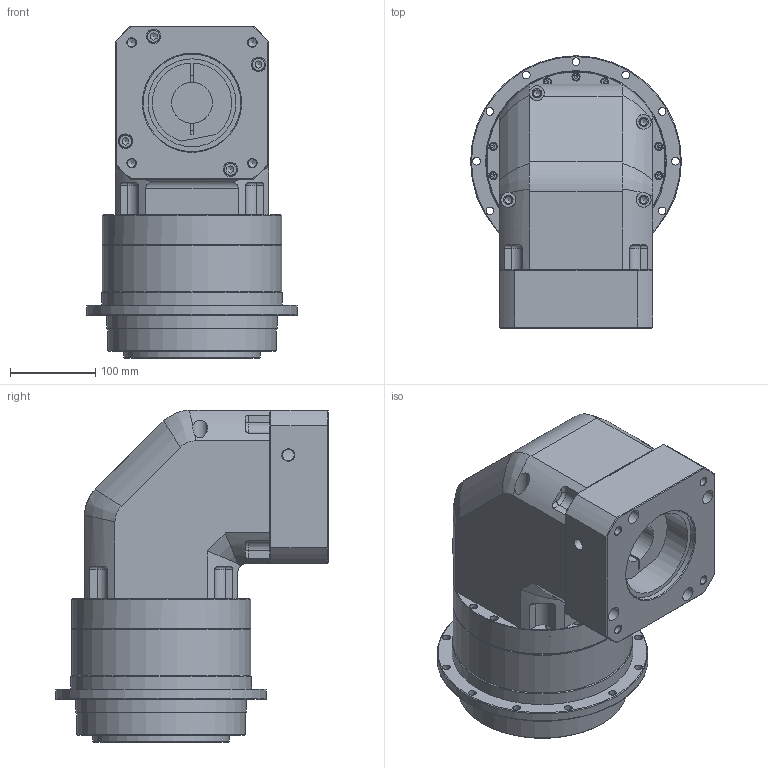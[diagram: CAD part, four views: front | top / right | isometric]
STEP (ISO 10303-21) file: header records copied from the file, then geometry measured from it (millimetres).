
FILE_DESCRIPTION((''),'2;1');
FILE_NAME('D:\유성\유성\도면\3D\2. 홈페이지용 3D 도면 (ipt)\외부도\SPLFH180\SPLFH180 SERIES (1 STAGE)_Shrinkwrap_1.stp','2014-05-07T15:03:24',('nagyu'),(''),'Autodesk Inventor 2013','Autodesk Inventor 2013','');
FILE_SCHEMA(('AUTOMOTIVE_DESIGN { 1 0 10303 214 1 1 1 1 }'));
Length unit declared in the file: millimetre
Products named in the file (1): SPLFH180 SERIES (1 STAGE)_Shrinkwrap_1
Bounding box: 247 x 319.5 x 389 mm (x, y, z)
Volume: 13821384.8 mm3; surface area: 624502.3 mm2
Topology: 1 solids, 27 shells, 609 faces, 1401 edges, 883 vertices
Faces by surface type: plane 275, cylinder 205, cone 93, torus 32, bspline 4
Full cylindrical faces by diameter (mm): 4.1 x2, 4.134 x18, 5 x7, 5.5 x15, 8.376 x18, 8.5 x7, 9 x12, 9.5 x15, 10 x5, 10.106 x4, 11 x8, 13.835 x1, 16 x14, 17 x4, 17.5 x4, 48 x1, 64.8 x1, 65 x1, 80 x1, 103 x1, 114.3 x1, 145 x2, 155.5 x1, 160 x2, 165 x1, 171.6 x1, 172 x1, 180 x2, 184.8 x1, 198 x1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
Entity records: 15841 total; most frequent: CARTESIAN_POINT 3309, DIRECTION 2609, ORIENTED_EDGE 2054, AXIS2_PLACEMENT_3D 1130, EDGE_CURVE 1027, EDGE_LOOP 962, VERTEX_POINT 767, FACE_OUTER_BOUND 609
